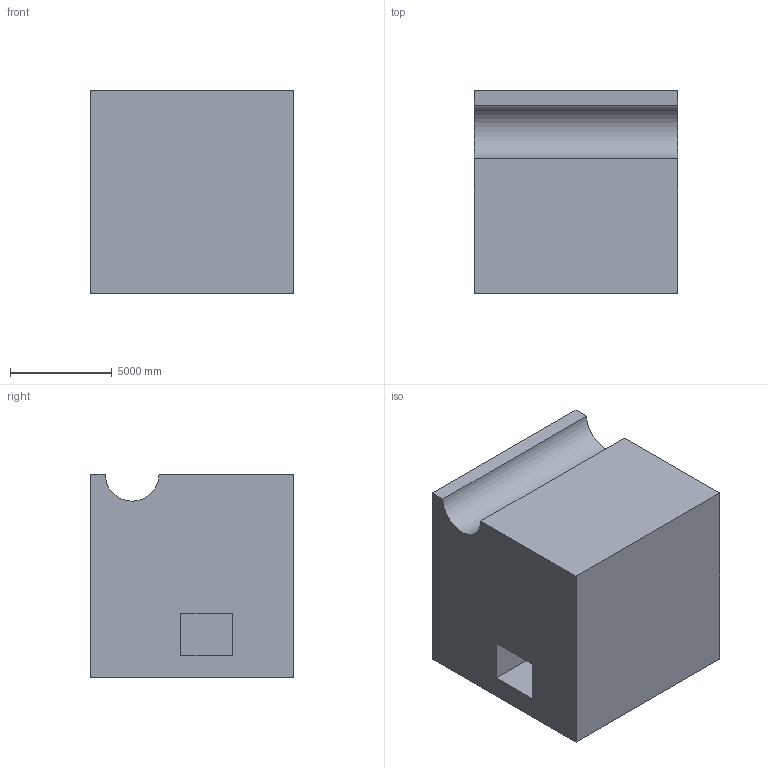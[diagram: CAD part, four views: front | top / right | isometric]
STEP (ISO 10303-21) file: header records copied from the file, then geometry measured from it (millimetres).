
FILE_DESCRIPTION (( 'STEP AP203' ), '1' );
FILE_NAME ('1221.STEP', '2022-08-18T13:15:17', ( 'user' ), ( '' ), 'SwSTEP 2.0', 'SolidWorks 2021', '' );
FILE_SCHEMA (( 'CONFIG_CONTROL_DESIGN' ));
Length unit declared in the file: centimetre
Products named in the file (1): 1221
Bounding box: 10000 x 10000 x 10000 mm (x, y, z)
Volume: 917151265833.3 mm3; surface area: 706172897.2 mm2
Topology: 1 solids, 1 shells, 16 faces, 36 edges, 24 vertices
Faces by surface type: plane 13, cylinder 3
Entity records: 523 total; most frequent: CARTESIAN_POINT 77, DIRECTION 76, ORIENTED_EDGE 72, EDGE_CURVE 36, LINE 30, VECTOR 30, VERTEX_POINT 24, AXIS2_PLACEMENT_3D 23
